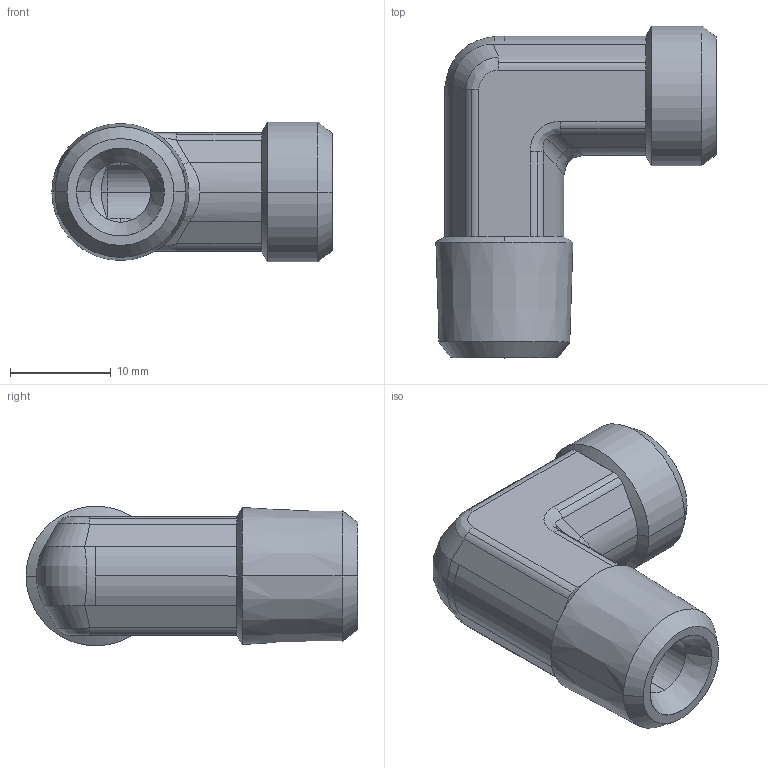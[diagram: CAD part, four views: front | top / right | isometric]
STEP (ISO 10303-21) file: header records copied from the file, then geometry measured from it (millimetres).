
FILE_DESCRIPTION((''),'2;1');
FILE_NAME('102005.stp','2007-10-30T16:29:39',(''),(''),'AutoCAD STEP 2000i','AutoCAD 2000i',', , ');
FILE_SCHEMA(('CONFIG_CONTROL_DESIGN'));
Length unit declared in the file: millimetre
Products named in the file (2): 102005.0; 3090#0
Assembly tree (1 placements, depth 2):
  102005.0
    3090#0
Bounding box: 27.8 x 32.92 x 13.85 mm (x, y, z)
Volume: 4262.3 mm3; surface area: 2977.9 mm2
Topology: 1 solids, 1 shells, 104 faces, 238 edges, 137 vertices
Faces by surface type: cylinder 42, plane 25, cone 23, bspline 14
Entity records: 3770 total; most frequent: CARTESIAN_POINT 1315, DIRECTION 529, ORIENTED_EDGE 476, EDGE_CURVE 238, AXIS2_PLACEMENT_3D 219, VERTEX_POINT 137, CIRCLE 109, EDGE_LOOP 107
